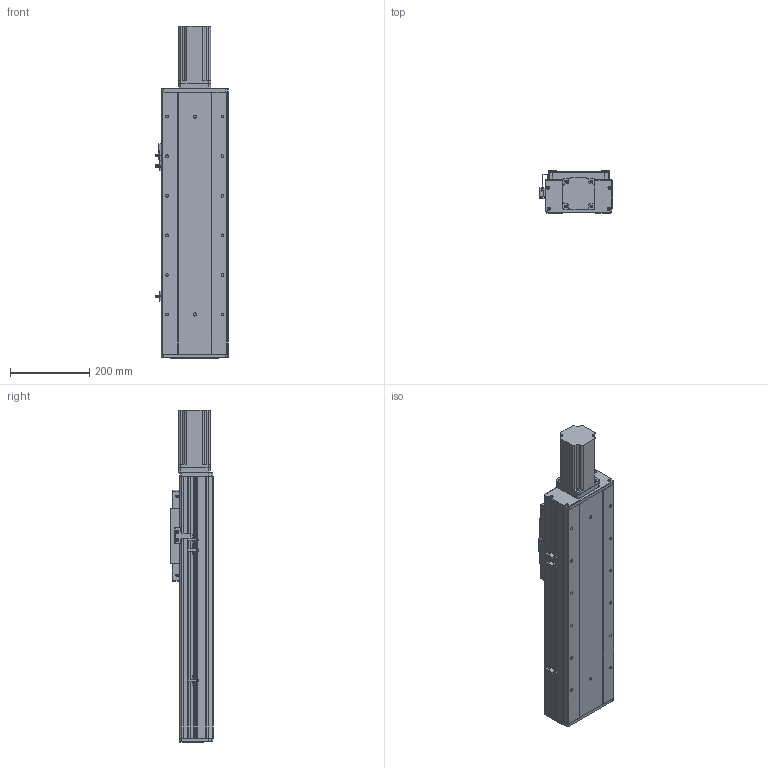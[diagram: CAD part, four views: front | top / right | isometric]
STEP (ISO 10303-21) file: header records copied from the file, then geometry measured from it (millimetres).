
FILE_DESCRIPTION (( 'STEP AP203' ), '1' );
FILE_NAME ('RY170F-L2020-300-MK.SLDASM_350.step', '2021-03-02T06:31:09', ( '盈信电脑' ), ( '东莞市道滘镇水果街19号' ), 'SwSTEP 2.0', 'SolidWorks 2012', '' );
FILE_SCHEMA (( 'CONFIG_CONTROL_DESIGN' ));
Products named in the file (22): RY170F-300眻蟀倰第菁釱-MK_350; RY170F-滅鳥奻裔; RY170F-300眻蟀祥凄詩湍-MK_350; RY170F-300眻蟀倰第奻裔啣-MK_350; RY170F-L2020-300-MK.SLDASM_350; 怢湛750W萇儂ㄗ80遺ㄘ; 750W萇儂梓袧蛌諉啣; 侐源滅袉蝶; 覜茼ん674; RY170F-詩湍揤踡輸; RY170F俋离覜茼え; 滅袉蝶18-24; RY170F-揤踡謫假蚾粣; RY170F-后盖板(铝件）; 覜茼ん672; RY100F-詩湍揤踡謫; 侂狟400W侜督萇儂; RY170F-直连前盖板(铝件）; 15; 滅袉蝶18-10; RY170F-佪裝臏賑輸20蹟譫; RY170F-丝杆铝滑块连接板
Assembly tree (26 placements, depth 3):
  RY170F-L2020-300-MK.SLDASM_350
    RY170F-300眻蟀倰第菁釱-MK_350
    RY170F-300眻蟀祥凄詩湍-MK_350
    RY170F-300眻蟀倰第奻裔啣-MK_350  x2
    RY170F-滅鳥奻裔
    RY170F-佪裝臏賑輸20蹟譫
    RY170F-丝杆铝滑块连接板
    侂狟400W侜督萇儂
      15
    RY170F-直连前盖板(铝件）
    滅袉蝶18-10
    RY100F-詩湍揤踡謫
    RY170F-后盖板(铝件）
    覜茼ん672  x3
    RY170F俋离覜茼え
    RY170F-揤踡謫假蚾粣
    RY170F-詩湍揤踡輸  x2
    滅袉蝶18-24
    750W萇儂梓袧蛌諉啣
    怢湛750W萇儂ㄗ80遺ㄘ
    侐源滅袉蝶  x2
    覜茼ん674
Bounding box: 183.7 x 107 x 839 mm (x, y, z)
Volume: 5072615.1 mm3; surface area: 1456884.8 mm2
Topology: 25 solids, 25 shells, 2196 faces, 6055 edges, 3888 vertices
Faces by surface type: plane 1001, cylinder 965, cone 212, bspline 18
Entity records: 64387 total; most frequent: CARTESIAN_POINT 12751, DIRECTION 10529, ORIENTED_EDGE 10102, EDGE_CURVE 5051, AXIS2_PLACEMENT_3D 3732, VERTEX_POINT 3308, VECTOR 3065, LINE 3065
